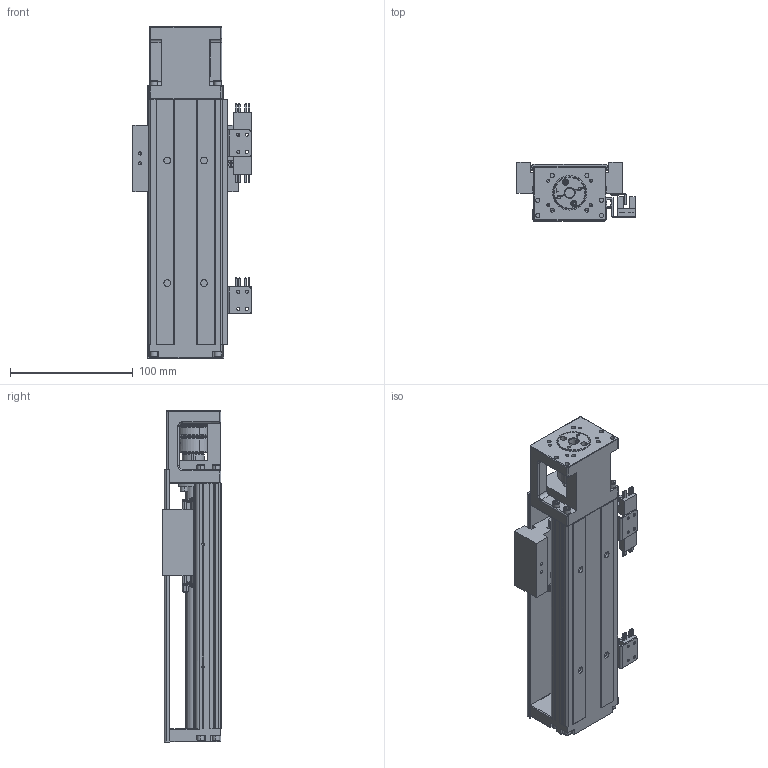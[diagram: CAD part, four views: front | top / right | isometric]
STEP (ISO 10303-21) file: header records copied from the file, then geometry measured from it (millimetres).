
FILE_DESCRIPTION (( 'STEP AP214' ), '1' );
FILE_NAME ('SFKK60-200A1-F0C.STEP', '2023-02-17T01:40:15', ( '微软用户' ), ( '微软中国' ), 'SwSTEP 2.0', 'SolidWorks 2018', '' );
FILE_SCHEMA (( 'AUTOMOTIVE_DESIGN' ));
Length unit declared in the file: millimetre
Products named in the file (12): 蚐郲; SFKK60-F0_200; 极限轨道与开关固定座组合_200; SX674嫖萇羲壽; SFKK-60-CU_200; hexagon socket countersunk head screws gb_GB_FASTENER_SCREWS_HSCHS M3X8-N; SFKK60-LR 憤癹寢耋_200; SFKK60-A1-C; SFD26x33-8-8_8; 开关固定座：KK-674S2-F; 带盖挡光片：KK-60-S2-D1; SFKK60-200A1-F0C
Assembly tree (17 placements, depth 3):
  SFKK60-200A1-F0C
    SFKK60-F0_200
    SFKK60-A1-C
    蚐郲
    极限轨道与开关固定座组合_200
      SFKK60-LR 憤癹寢耋_200
      开关固定座：KK-674S2-F  x2
    SX674嫖萇羲壽  x3
    带盖挡光片：KK-60-S2-D1
    SFKK-60-CU_200
    hexagon socket countersunk head screws gb_GB_FASTENER_SCREWS_HSCHS M3X8-N  x4
    SFD26x33-8-8_8
Bounding box: 96.4 x 48 x 270.6 mm (x, y, z)
Volume: 430496.9 mm3; surface area: 184171.5 mm2
Topology: 41 solids, 41 shells, 2100 faces, 5471 edges, 3480 vertices
Faces by surface type: plane 1025, cylinder 806, cone 168, torus 87, sphere 10, bspline 4
Entity records: 74431 total; most frequent: CARTESIAN_POINT 13392, DIRECTION 10356, ORIENTED_EDGE 9834, EDGE_CURVE 4917, AXIS2_PLACEMENT_3D 3707, VERTEX_POINT 3183, VECTOR 2942, LINE 2942
